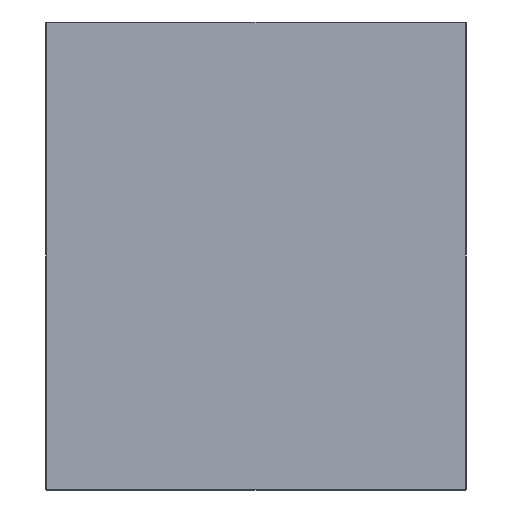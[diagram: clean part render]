
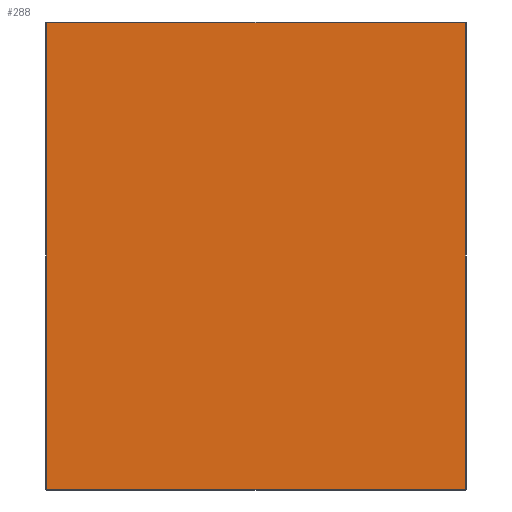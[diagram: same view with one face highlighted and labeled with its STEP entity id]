
A CAD part, front view. The second image highlights one B-rep face of the part: STEP entity #288.
In plain terms, the highlighted planar face has unit normal (0, -1, 0).
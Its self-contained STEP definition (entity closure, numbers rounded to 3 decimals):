
#2 = DIRECTION ( 'NONE',  ( 0., 0., -1. ) ) ;
#6 = FACE_OUTER_BOUND ( 'NONE', #488, .T. ) ;
#58 = EDGE_CURVE ( 'NONE', #94, #62, #164, .T. ) ;
#62 = VERTEX_POINT ( 'NONE', #172 ) ;
#68 = CARTESIAN_POINT ( 'NONE',  ( 222., 0., -247. ) ) ;
#70 = DIRECTION ( 'NONE',  ( 1., 0., 0. ) ) ;
#74 = DIRECTION ( 'NONE',  ( 0., 0., 1. ) ) ;
#78 = CARTESIAN_POINT ( 'NONE',  ( -222., 0., 0. ) ) ;
#89 = EDGE_CURVE ( 'NONE', #263, #94, #621, .T. ) ;
#94 = VERTEX_POINT ( 'NONE', #68 ) ;
#102 = ORIENTED_EDGE ( 'NONE', *, *, #645, .T. ) ;
#164 = LINE ( 'NONE', #539, #226 ) ;
#172 = CARTESIAN_POINT ( 'NONE',  ( 222., 0., 247. ) ) ;
#189 = LINE ( 'NONE', #78, #567 ) ;
#226 = VECTOR ( 'NONE', #74, 1000. ) ;
#229 = DIRECTION ( 'NONE',  ( 0., 1., 0. ) ) ;
#240 = DIRECTION ( 'NONE',  ( 0., 0., 1. ) ) ;
#241 = ORIENTED_EDGE ( 'NONE', *, *, #89, .T. ) ;
#263 = VERTEX_POINT ( 'NONE', #336 ) ;
#288 = ADVANCED_FACE ( 'NONE', ( #6 ), #289, .F. ) ;
#289 = PLANE ( 'NONE',  #403 ) ;
#298 = DIRECTION ( 'NONE',  ( -1., 0., 0. ) ) ;
#316 = VERTEX_POINT ( 'NONE', #528 ) ;
#324 = VECTOR ( 'NONE', #298, 1000. ) ;
#336 = CARTESIAN_POINT ( 'NONE',  ( -222., 0., -247. ) ) ;
#338 = CARTESIAN_POINT ( 'NONE',  ( 0., 0., -247. ) ) ;
#343 = LINE ( 'NONE', #467, #324 ) ;
#378 = ORIENTED_EDGE ( 'NONE', *, *, #399, .T. ) ;
#382 = VECTOR ( 'NONE', #70, 1000. ) ;
#399 = EDGE_CURVE ( 'NONE', #62, #316, #343, .T. ) ;
#403 = AXIS2_PLACEMENT_3D ( 'NONE', #492, #229, #240 ) ;
#467 = CARTESIAN_POINT ( 'NONE',  ( 0., 0., 247. ) ) ;
#488 = EDGE_LOOP ( 'NONE', ( #527, #378, #102, #241 ) ) ;
#492 = CARTESIAN_POINT ( 'NONE',  ( 0., 0., 0. ) ) ;
#527 = ORIENTED_EDGE ( 'NONE', *, *, #58, .T. ) ;
#528 = CARTESIAN_POINT ( 'NONE',  ( -222., 0., 247. ) ) ;
#539 = CARTESIAN_POINT ( 'NONE',  ( 222., 0., 0. ) ) ;
#567 = VECTOR ( 'NONE', #2, 1000. ) ;
#621 = LINE ( 'NONE', #338, #382 ) ;
#645 = EDGE_CURVE ( 'NONE', #316, #263, #189, .T. ) ;
